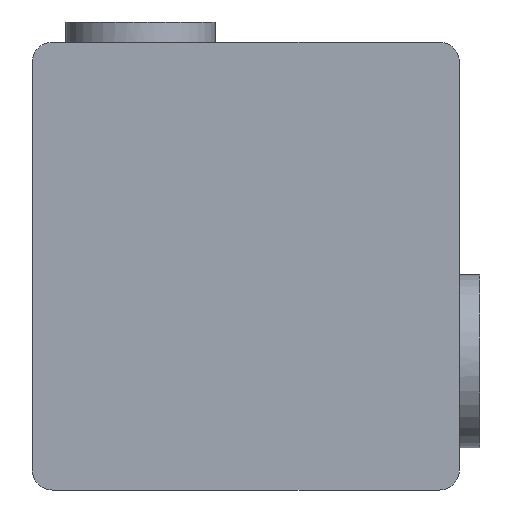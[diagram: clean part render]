
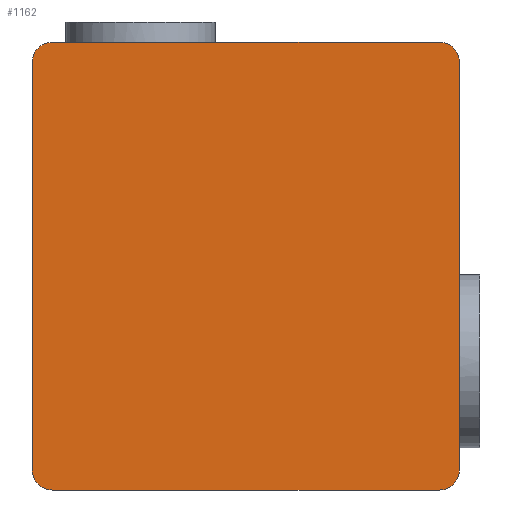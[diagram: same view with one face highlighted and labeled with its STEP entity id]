
A CAD part, front view. The second image highlights one B-rep face of the part: STEP entity #1162.
In plain terms, the highlighted planar face has unit normal (0, -1, 0).
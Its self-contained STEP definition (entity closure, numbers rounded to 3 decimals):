
#13 = EDGE_LOOP ( 'NONE', ( #601, #1871, #2090, #2080, #2148, #58, #710, #1226 ) ) ;
#58 = ORIENTED_EDGE ( 'NONE', *, *, #527, .T. ) ;
#66 = DIRECTION ( 'NONE',  ( 1., 0., 0. ) ) ;
#87 = CARTESIAN_POINT ( 'NONE',  ( 105.5, 0., -100.5 ) ) ;
#95 = CIRCLE ( 'NONE', #207, 10. ) ;
#97 = DIRECTION ( 'NONE',  ( 0., 1., 0. ) ) ;
#98 = VERTEX_POINT ( 'NONE', #87 ) ;
#142 = VERTEX_POINT ( 'NONE', #1322 ) ;
#203 = AXIS2_PLACEMENT_3D ( 'NONE', #987, #97, #2186 ) ;
#207 = AXIS2_PLACEMENT_3D ( 'NONE', #1527, #1865, #1698 ) ;
#212 = VERTEX_POINT ( 'NONE', #641 ) ;
#263 = DIRECTION ( 'NONE',  ( 0., -1., 0. ) ) ;
#311 = CIRCLE ( 'NONE', #1603, 10. ) ;
#338 = CARTESIAN_POINT ( 'NONE',  ( 95.5, 0., 110.5 ) ) ;
#418 = FACE_OUTER_BOUND ( 'NONE', #13, .T. ) ;
#440 = CARTESIAN_POINT ( 'NONE',  ( 95.5, 0., -110.5 ) ) ;
#503 = CARTESIAN_POINT ( 'NONE',  ( -105.5, 0., 110.5 ) ) ;
#527 = EDGE_CURVE ( 'NONE', #2052, #723, #1266, .T. ) ;
#595 = DIRECTION ( 'NONE',  ( 0., 0., 1. ) ) ;
#601 = ORIENTED_EDGE ( 'NONE', *, *, #1007, .F. ) ;
#641 = CARTESIAN_POINT ( 'NONE',  ( -95.5, 0., 110.5 ) ) ;
#666 = CARTESIAN_POINT ( 'NONE',  ( 105.5, 0., -110.5 ) ) ;
#710 = ORIENTED_EDGE ( 'NONE', *, *, #804, .F. ) ;
#723 = VERTEX_POINT ( 'NONE', #338 ) ;
#732 = DIRECTION ( 'NONE',  ( 0., -1., 0. ) ) ;
#745 = CARTESIAN_POINT ( 'NONE',  ( -105.5, 0., 100.5 ) ) ;
#804 = EDGE_CURVE ( 'NONE', #212, #723, #1991, .T. ) ;
#807 = VERTEX_POINT ( 'NONE', #440 ) ;
#827 = DIRECTION ( 'NONE',  ( 0., -1., 0. ) ) ;
#904 = CARTESIAN_POINT ( 'NONE',  ( -95.5, 0., -100.5 ) ) ;
#954 = EDGE_CURVE ( 'NONE', #2052, #98, #2190, .T. ) ;
#977 = CIRCLE ( 'NONE', #1706, 10. ) ;
#987 = CARTESIAN_POINT ( 'NONE',  ( 0., 0., 0. ) ) ;
#1007 = EDGE_CURVE ( 'NONE', #142, #1906, #1556, .T. ) ;
#1026 = DIRECTION ( 'NONE',  ( 0., 0., 1. ) ) ;
#1162 = ADVANCED_FACE ( 'NONE', ( #418 ), #2195, .F. ) ;
#1226 = ORIENTED_EDGE ( 'NONE', *, *, #1586, .T. ) ;
#1266 = CIRCLE ( 'NONE', #1779, 10. ) ;
#1279 = EDGE_CURVE ( 'NONE', #807, #2044, #1712, .T. ) ;
#1322 = CARTESIAN_POINT ( 'NONE',  ( -105.5, 0., -100.5 ) ) ;
#1429 = DIRECTION ( 'NONE',  ( 0., 0., 1. ) ) ;
#1491 = DIRECTION ( 'NONE',  ( 0., 0., -1. ) ) ;
#1505 = EDGE_CURVE ( 'NONE', #142, #2044, #977, .T. ) ;
#1521 = CARTESIAN_POINT ( 'NONE',  ( 95.5, 0., 100.5 ) ) ;
#1527 = CARTESIAN_POINT ( 'NONE',  ( 95.5, 0., -100.5 ) ) ;
#1528 = CARTESIAN_POINT ( 'NONE',  ( -95.5, 0., -110.5 ) ) ;
#1544 = DIRECTION ( 'NONE',  ( 0., 0., 1. ) ) ;
#1550 = CARTESIAN_POINT ( 'NONE',  ( 105.5, 0., 100.5 ) ) ;
#1556 = LINE ( 'NONE', #503, #1922 ) ;
#1574 = CARTESIAN_POINT ( 'NONE',  ( 105.5, 0., 110.5 ) ) ;
#1586 = EDGE_CURVE ( 'NONE', #212, #1906, #311, .T. ) ;
#1603 = AXIS2_PLACEMENT_3D ( 'NONE', #1833, #263, #595 ) ;
#1634 = VECTOR ( 'NONE', #66, 1000. ) ;
#1671 = VECTOR ( 'NONE', #1692, 1000. ) ;
#1692 = DIRECTION ( 'NONE',  ( -1., 0., 0. ) ) ;
#1698 = DIRECTION ( 'NONE',  ( 0., 0., 1. ) ) ;
#1706 = AXIS2_PLACEMENT_3D ( 'NONE', #904, #732, #1429 ) ;
#1712 = LINE ( 'NONE', #666, #1671 ) ;
#1730 = EDGE_CURVE ( 'NONE', #807, #98, #95, .T. ) ;
#1779 = AXIS2_PLACEMENT_3D ( 'NONE', #1521, #827, #1026 ) ;
#1833 = CARTESIAN_POINT ( 'NONE',  ( -95.5, 0., 100.5 ) ) ;
#1865 = DIRECTION ( 'NONE',  ( 0., -1., 0. ) ) ;
#1871 = ORIENTED_EDGE ( 'NONE', *, *, #1505, .T. ) ;
#1906 = VERTEX_POINT ( 'NONE', #745 ) ;
#1922 = VECTOR ( 'NONE', #1544, 1000. ) ;
#1954 = VECTOR ( 'NONE', #1491, 1000. ) ;
#1991 = LINE ( 'NONE', #2003, #1634 ) ;
#2003 = CARTESIAN_POINT ( 'NONE',  ( 105.5, 0., 110.5 ) ) ;
#2044 = VERTEX_POINT ( 'NONE', #1528 ) ;
#2052 = VERTEX_POINT ( 'NONE', #1550 ) ;
#2080 = ORIENTED_EDGE ( 'NONE', *, *, #1730, .T. ) ;
#2090 = ORIENTED_EDGE ( 'NONE', *, *, #1279, .F. ) ;
#2148 = ORIENTED_EDGE ( 'NONE', *, *, #954, .F. ) ;
#2186 = DIRECTION ( 'NONE',  ( 0., 0., 1. ) ) ;
#2190 = LINE ( 'NONE', #1574, #1954 ) ;
#2195 = PLANE ( 'NONE',  #203 ) ;
